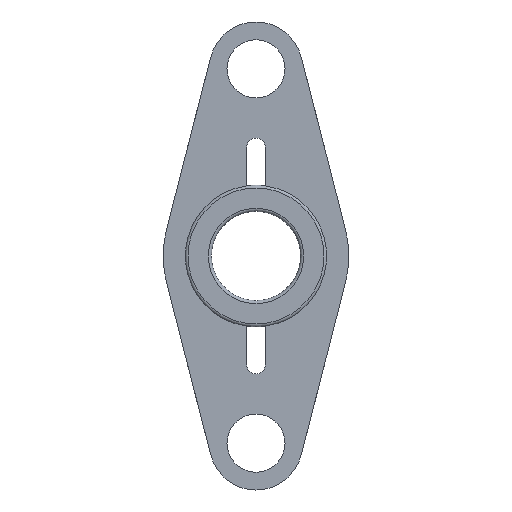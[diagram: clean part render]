
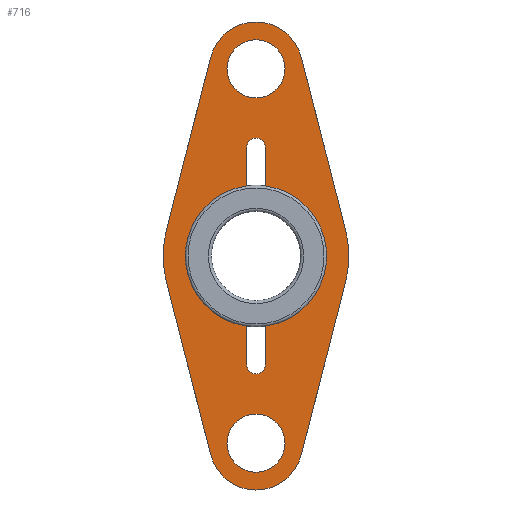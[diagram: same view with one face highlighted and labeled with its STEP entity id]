
A CAD part, front view. The second image highlights one B-rep face of the part: STEP entity #716.
In plain terms, the highlighted planar face has unit normal (0, -1, 0).
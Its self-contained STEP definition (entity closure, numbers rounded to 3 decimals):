
#33=FACE_BOUND('',#257,.T.);
#34=FACE_BOUND('',#258,.T.);
#35=FACE_BOUND('',#259,.T.);
#54=PLANE('',#802);
#63=LINE('',#1080,#123);
#71=LINE('',#1112,#131);
#78=LINE('',#1126,#138);
#81=LINE('',#1135,#141);
#103=LINE('',#1199,#163);
#107=LINE('',#1208,#167);
#110=LINE('',#1216,#170);
#113=LINE('',#1224,#173);
#123=VECTOR('',#852,10.);
#131=VECTOR('',#872,10.);
#138=VECTOR('',#881,10.);
#141=VECTOR('',#892,10.);
#163=VECTOR('',#958,10.);
#167=VECTOR('',#968,10.);
#170=VECTOR('',#977,10.);
#173=VECTOR('',#986,10.);
#217=FACE_OUTER_BOUND('',#256,.T.);
#256=EDGE_LOOP('',(#632,#633,#634,#635,#636,#637,#638,#639));
#257=EDGE_LOOP('',(#640,#641,#642,#643,#644,#645,#646,#647));
#258=EDGE_LOOP('',(#648));
#259=EDGE_LOOP('',(#649));
#272=CIRCLE('',#756,5.994);
#276=CIRCLE('',#766,0.794);
#278=CIRCLE('',#770,0.794);
#282=CIRCLE('',#777,5.994);
#286=CIRCLE('',#787,2.464);
#287=CIRCLE('',#789,2.464);
#288=CIRCLE('',#792,7.899);
#289=CIRCLE('',#795,3.969);
#290=CIRCLE('',#798,7.899);
#291=CIRCLE('',#801,3.969);
#316=VERTEX_POINT('',#1066);
#317=VERTEX_POINT('',#1068);
#321=VERTEX_POINT('',#1078);
#332=VERTEX_POINT('',#1109);
#333=VERTEX_POINT('',#1111);
#338=VERTEX_POINT('',#1123);
#339=VERTEX_POINT('',#1125);
#340=VERTEX_POINT('',#1129);
#358=VERTEX_POINT('',#1189);
#359=VERTEX_POINT('',#1193);
#360=VERTEX_POINT('',#1197);
#361=VERTEX_POINT('',#1198);
#362=VERTEX_POINT('',#1203);
#363=VERTEX_POINT('',#1207);
#364=VERTEX_POINT('',#1211);
#365=VERTEX_POINT('',#1215);
#366=VERTEX_POINT('',#1219);
#367=VERTEX_POINT('',#1223);
#385=EDGE_CURVE('',#317,#316,#272,.T.);
#391=EDGE_CURVE('',#316,#321,#63,.T.);
#404=EDGE_CURVE('',#333,#332,#71,.T.);
#411=EDGE_CURVE('',#339,#338,#78,.T.);
#413=EDGE_CURVE('',#338,#340,#276,.T.);
#416=EDGE_CURVE('',#340,#317,#81,.T.);
#420=EDGE_CURVE('',#321,#333,#278,.T.);
#430=EDGE_CURVE('',#332,#339,#282,.T.);
#444=EDGE_CURVE('',#358,#358,#286,.T.);
#446=EDGE_CURVE('',#359,#359,#287,.T.);
#448=EDGE_CURVE('',#360,#361,#103,.T.);
#451=EDGE_CURVE('',#362,#360,#288,.T.);
#453=EDGE_CURVE('',#363,#362,#107,.T.);
#455=EDGE_CURVE('',#364,#363,#289,.T.);
#457=EDGE_CURVE('',#365,#364,#110,.T.);
#459=EDGE_CURVE('',#366,#365,#290,.T.);
#461=EDGE_CURVE('',#367,#366,#113,.T.);
#463=EDGE_CURVE('',#361,#367,#291,.T.);
#632=ORIENTED_EDGE('',*,*,#463,.F.);
#633=ORIENTED_EDGE('',*,*,#448,.F.);
#634=ORIENTED_EDGE('',*,*,#451,.F.);
#635=ORIENTED_EDGE('',*,*,#453,.F.);
#636=ORIENTED_EDGE('',*,*,#455,.F.);
#637=ORIENTED_EDGE('',*,*,#457,.F.);
#638=ORIENTED_EDGE('',*,*,#459,.F.);
#639=ORIENTED_EDGE('',*,*,#461,.F.);
#640=ORIENTED_EDGE('',*,*,#404,.T.);
#641=ORIENTED_EDGE('',*,*,#430,.T.);
#642=ORIENTED_EDGE('',*,*,#411,.T.);
#643=ORIENTED_EDGE('',*,*,#413,.T.);
#644=ORIENTED_EDGE('',*,*,#416,.T.);
#645=ORIENTED_EDGE('',*,*,#385,.T.);
#646=ORIENTED_EDGE('',*,*,#391,.T.);
#647=ORIENTED_EDGE('',*,*,#420,.T.);
#648=ORIENTED_EDGE('',*,*,#444,.T.);
#649=ORIENTED_EDGE('',*,*,#446,.T.);
#716=ADVANCED_FACE('',(#217,#33,#34,#35),#54,.F.);
#756=AXIS2_PLACEMENT_3D('',#1069,#843,#844);
#766=AXIS2_PLACEMENT_3D('',#1130,#885,#886);
#770=AXIS2_PLACEMENT_3D('',#1142,#898,#899);
#777=AXIS2_PLACEMENT_3D('',#1161,#918,#919);
#787=AXIS2_PLACEMENT_3D('',#1190,#948,#949);
#789=AXIS2_PLACEMENT_3D('',#1194,#953,#954);
#792=AXIS2_PLACEMENT_3D('',#1204,#963,#964);
#795=AXIS2_PLACEMENT_3D('',#1212,#972,#973);
#798=AXIS2_PLACEMENT_3D('',#1220,#981,#982);
#801=AXIS2_PLACEMENT_3D('',#1227,#990,#991);
#802=AXIS2_PLACEMENT_3D('',#1228,#992,#993);
#843=DIRECTION('center_axis',(0.,1.,0.));
#844=DIRECTION('ref_axis',(1.,0.,0.));
#852=DIRECTION('',(0.,0.,-1.));
#872=DIRECTION('',(0.,0.,1.));
#881=DIRECTION('',(0.,0.,1.));
#885=DIRECTION('center_axis',(0.,1.,0.));
#886=DIRECTION('ref_axis',(-1.,0.,0.));
#892=DIRECTION('',(0.,0.,-1.));
#898=DIRECTION('center_axis',(0.,1.,0.));
#899=DIRECTION('ref_axis',(1.,0.,0.));
#918=DIRECTION('center_axis',(0.,1.,0.));
#919=DIRECTION('ref_axis',(1.,0.,0.));
#948=DIRECTION('center_axis',(0.,1.,0.));
#949=DIRECTION('ref_axis',(1.,0.,0.));
#953=DIRECTION('center_axis',(0.,1.,0.));
#954=DIRECTION('ref_axis',(1.,0.,0.));
#958=DIRECTION('',(0.248,0.,0.969));
#963=DIRECTION('center_axis',(0.,1.,0.));
#964=DIRECTION('ref_axis',(-0.969,0.,-0.248));
#968=DIRECTION('',(-0.248,0.,0.969));
#972=DIRECTION('center_axis',(0.,1.,0.));
#973=DIRECTION('ref_axis',(0.969,0.,-0.248));
#977=DIRECTION('',(-0.248,0.,-0.969));
#981=DIRECTION('center_axis',(0.,1.,0.));
#982=DIRECTION('ref_axis',(0.969,0.,0.248));
#986=DIRECTION('',(0.248,0.,-0.969));
#990=DIRECTION('center_axis',(0.,1.,0.));
#991=DIRECTION('ref_axis',(-0.969,0.,0.248));
#992=DIRECTION('center_axis',(0.,1.,0.));
#993=DIRECTION('ref_axis',(0.,0.,1.));
#1066=CARTESIAN_POINT('',(0.794,0.,-5.942));
#1068=CARTESIAN_POINT('',(0.794,0.,5.942));
#1069=CARTESIAN_POINT('Origin',(0.,0.,0.));
#1078=CARTESIAN_POINT('',(0.794,0.,-9.208));
#1080=CARTESIAN_POINT('',(0.794,0.,-4.604));
#1109=CARTESIAN_POINT('',(-0.794,0.,-5.942));
#1111=CARTESIAN_POINT('',(-0.794,0.,-9.208));
#1112=CARTESIAN_POINT('',(-0.794,0.,4.604));
#1123=CARTESIAN_POINT('',(-0.794,0.,9.208));
#1125=CARTESIAN_POINT('',(-0.794,0.,5.942));
#1126=CARTESIAN_POINT('',(-0.794,0.,4.604));
#1129=CARTESIAN_POINT('',(0.794,0.,9.208));
#1130=CARTESIAN_POINT('Origin',(0.,0.,9.208));
#1135=CARTESIAN_POINT('',(0.794,0.,-4.604));
#1142=CARTESIAN_POINT('Origin',(0.,0.,-9.208));
#1161=CARTESIAN_POINT('Origin',(0.,0.,0.));
#1189=CARTESIAN_POINT('',(-2.464,0.,-15.875));
#1190=CARTESIAN_POINT('Origin',(0.,0.,-15.875));
#1193=CARTESIAN_POINT('',(-2.464,0.,15.875));
#1194=CARTESIAN_POINT('Origin',(0.,0.,15.875));
#1197=CARTESIAN_POINT('',(-7.653,0.,1.956));
#1198=CARTESIAN_POINT('',(-3.845,0.,16.858));
#1199=CARTESIAN_POINT('',(-7.653,0.,1.956));
#1203=CARTESIAN_POINT('',(-7.653,0.,-1.956));
#1204=CARTESIAN_POINT('Origin',(0.,0.,0.));
#1207=CARTESIAN_POINT('',(-3.845,0.,-16.858));
#1208=CARTESIAN_POINT('',(-3.845,0.,-16.858));
#1211=CARTESIAN_POINT('',(3.845,0.,-16.858));
#1212=CARTESIAN_POINT('Origin',(0.,0.,-15.875));
#1215=CARTESIAN_POINT('',(7.653,0.,-1.956));
#1216=CARTESIAN_POINT('',(7.653,0.,-1.956));
#1219=CARTESIAN_POINT('',(7.653,0.,1.956));
#1220=CARTESIAN_POINT('Origin',(0.,0.,0.));
#1223=CARTESIAN_POINT('',(3.845,0.,16.858));
#1224=CARTESIAN_POINT('',(3.845,0.,16.858));
#1227=CARTESIAN_POINT('Origin',(0.,0.,15.875));
#1228=CARTESIAN_POINT('Origin',(0.,0.,0.));
